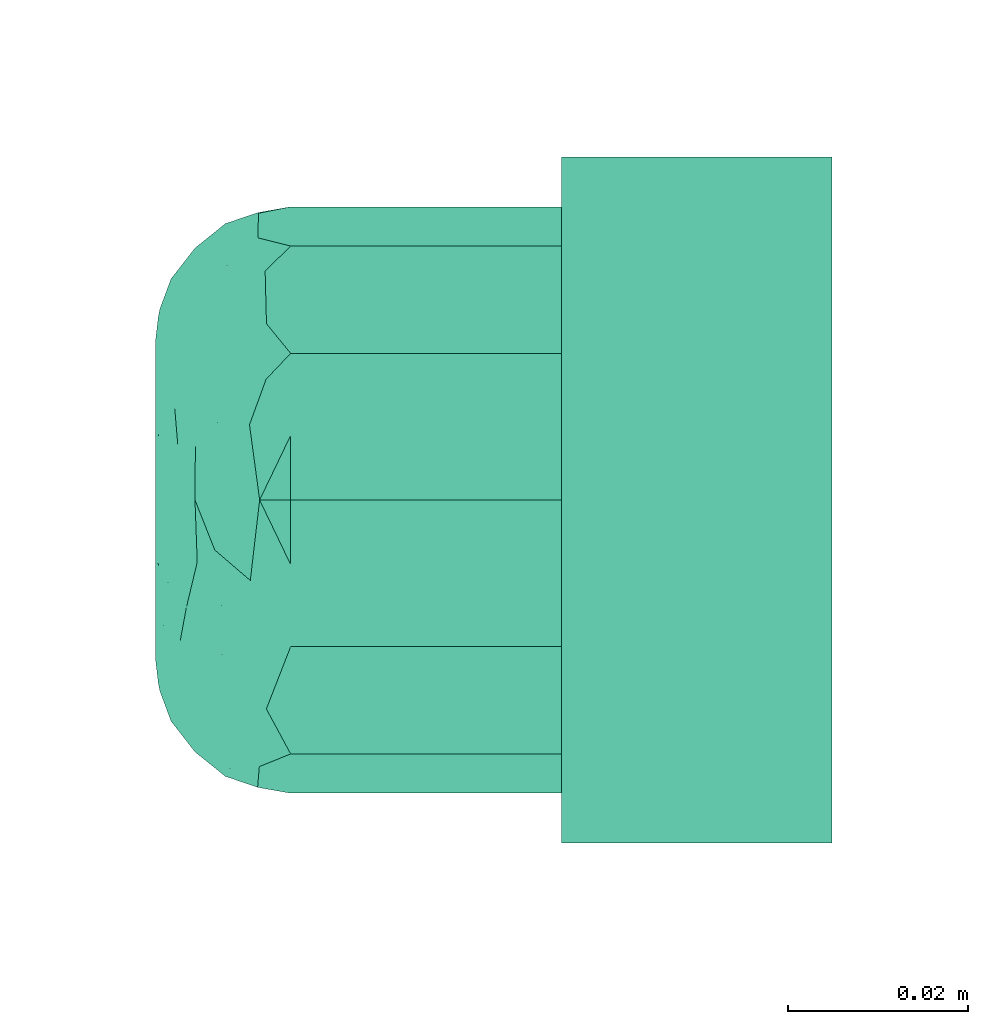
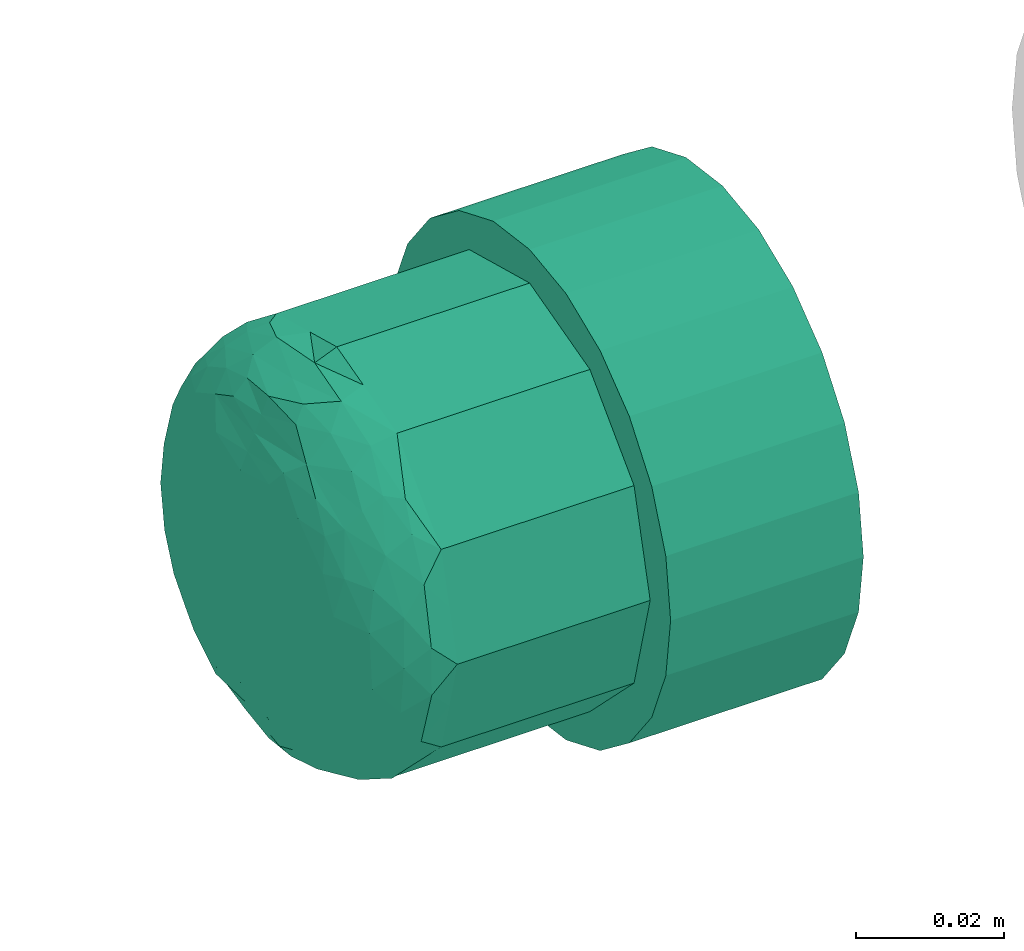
# One storey, part 39 of 146: 1 distribution control element.
"""IFC2X3 building model written with IfcOpenShell, lengths in metres."""

from ifc_helpers import new_model, entity, si_unit, converted_unit, derived_unit, direction, frame, origin, place, context, subcontext, project, spatial, faceted_brep, source, transform, mapped, material, type_object, type_shapes, element, save


model = new_model("IFC2X3")

# Units and contexts
model_context = context("Model", 3, precision=1e-05, world=origin(), true_north=direction((6.12303176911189e-17, 1.0)))
body_context = subcontext(model_context, "Body", "Model", "MODEL_VIEW")
ifc_project = project(units=[si_unit("LENGTHUNIT", "METRE"), si_unit("AREAUNIT", "SQUARE_METRE"), si_unit("VOLUMEUNIT", "CUBIC_METRE"), converted_unit("PLANEANGLEUNIT", "DEGREE", entity("IfcRatioMeasure", 0.0174532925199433), si_unit("PLANEANGLEUNIT", "RADIAN"), dimensions=[0, 0, 0, 0, 0, 0, 0]), si_unit("MASSUNIT", "GRAM", prefix="KILO"), derived_unit("MASSDENSITYUNIT", [(si_unit("MASSUNIT", "GRAM", prefix="KILO"), 1), (si_unit("LENGTHUNIT", "METRE"), -3)]), si_unit("TIMEUNIT", "SECOND"), si_unit("FREQUENCYUNIT", "HERTZ"), si_unit("THERMODYNAMICTEMPERATUREUNIT", "DEGREE_CELSIUS"), derived_unit("THERMALTRANSMITTANCEUNIT", [(si_unit("MASSUNIT", "GRAM", prefix="KILO"), 1), (si_unit("THERMODYNAMICTEMPERATUREUNIT", "KELVIN"), -1), (si_unit("TIMEUNIT", "SECOND"), -3)]), derived_unit("VOLUMETRICFLOWRATEUNIT", [(si_unit("LENGTHUNIT", "METRE"), 3), (si_unit("TIMEUNIT", "SECOND"), -1)]), si_unit("ELECTRICCURRENTUNIT", "AMPERE"), si_unit("ELECTRICVOLTAGEUNIT", "VOLT"), si_unit("POWERUNIT", "WATT"), si_unit("FORCEUNIT", "NEWTON"), si_unit("ILLUMINANCEUNIT", "LUX"), si_unit("LUMINOUSFLUXUNIT", "LUMEN"), si_unit("LUMINOUSINTENSITYUNIT", "CANDELA"), derived_unit("USERDEFINED", [(si_unit("MASSUNIT", "GRAM", prefix="KILO"), -1), (si_unit("LENGTHUNIT", "METRE"), -2), (si_unit("TIMEUNIT", "SECOND"), 3), (si_unit("LUMINOUSFLUXUNIT", "LUMEN"), 1)]), derived_unit("LINEARVELOCITYUNIT", [(si_unit("LENGTHUNIT", "METRE"), 1), (si_unit("TIMEUNIT", "SECOND"), -1)]), si_unit("PRESSUREUNIT", "PASCAL"), derived_unit("USERDEFINED", [(si_unit("LENGTHUNIT", "METRE"), -2), (si_unit("MASSUNIT", "GRAM", prefix="KILO"), 1), (si_unit("TIMEUNIT", "SECOND"), -2)])], contexts=[model_context])

# Site, building, storey
site_placement = place(None, origin())
site = spatial("IfcSite", under=ifc_project, at=site_placement, Name="Default", CompositionType="ELEMENT")
building_placement = place(site_placement, origin())
building = spatial("IfcBuilding", under=site, at=building_placement, CompositionType="ELEMENT")
storey_placement = place(building_placement, origin())
storey = spatial("IfcBuildingStorey", under=building, at=storey_placement, Name="S01", CompositionType="ELEMENT", Elevation=0.0)

# Distribution control element
ifc_material = material(Name="Red plastic")
alarm_type = type_object("IfcAlarmType", Name="Incendie_Flash", PredefinedType="NOTDEFINED", material=ifc_material)
shared_shape = source(origin(), body_context, "Body", "Brep", [
    faceted_brep([(0.00983512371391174, -0.0367051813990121, 0.0299999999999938), (0.0190000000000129, -0.0329089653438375, 0.0299999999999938), (0.0268700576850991, -0.0268700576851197, 0.0299999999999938), (0.0329089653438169, -0.0190000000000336, 0.0299999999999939), (0.0367051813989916, -0.00983512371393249, 0.029999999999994), (0.0380000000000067, 0.0, 0.0299999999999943), (0.0367051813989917, 0.0098351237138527, 0.0299999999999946), (0.0329089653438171, 0.0189999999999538, 0.0299999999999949), (0.0268700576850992, 0.02687005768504, 0.0299999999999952), (0.0190000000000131, 0.0329089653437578, 0.0299999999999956), (0.00983512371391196, 0.0367051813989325, 0.0299999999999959), (0.0, 0.0379999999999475, 0.0299999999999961), (-0.00983512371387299, 0.0367051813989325, 0.0299999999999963), (-0.0189999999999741, 0.0329089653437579, 0.0299999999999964), (-0.0268700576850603, 0.0268700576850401, 0.0299999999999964), (-0.0329089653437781, 0.0189999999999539, 0.0299999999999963), (-0.0367051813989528, 0.0098351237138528, 0.0299999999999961), (-0.0379999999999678, 0.0, 0.0299999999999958), (-0.0367051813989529, -0.00983512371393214, 0.0299999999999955), (-0.0329089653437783, -0.0190000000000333, 0.0299999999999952), (-0.0268700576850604, -0.0268700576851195, 0.0299999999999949), (-0.0189999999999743, -0.0329089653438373, 0.0299999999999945), (-0.0098351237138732, -0.036705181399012, 0.0299999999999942), (0.0, -0.038000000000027, 0.029999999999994), (0.0367051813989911, 0.00983512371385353, 0.0), (0.038000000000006, 0.0, 0.0), (0.036705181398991, -0.00983512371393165, 0.0), (0.0329089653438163, -0.0190000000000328, 0.0), (0.0268700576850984, -0.0268700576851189, 0.0), (0.0190000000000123, -0.0329089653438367, 0.0), (0.00983512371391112, -0.0367051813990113, 0.0), (0.0, -0.0380000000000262, 0.0), (-0.00983512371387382, -0.0367051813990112, 0.0), (-0.0189999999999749, -0.0329089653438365, 0.0), (-0.0268700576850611, -0.0268700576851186, 0.0), (-0.0329089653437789, -0.0190000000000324, 0.0), (-0.0367051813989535, -0.00983512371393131, 0.0), (-0.0379999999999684, 0.0, 0.0), (-0.0367051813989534, 0.00983512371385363, 0.0), (-0.0329089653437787, 0.0189999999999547, 0.0), (-0.0268700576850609, 0.0268700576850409, 0.0), (-0.0189999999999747, 0.0329089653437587, 0.0), (-0.00983512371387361, 0.0367051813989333, 0.0), (0.0, 0.0379999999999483, 0.0), (0.00983512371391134, 0.0367051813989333, 0.0), (0.0190000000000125, 0.0329089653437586, 0.0), (0.0268700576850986, 0.0268700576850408, 0.0), (0.0329089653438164, 0.0189999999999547, 0.0)], [[[0, 1, 2, 3, 4, 5, 6, 7, 8, 9, 10, 11, 12, 13, 14, 15, 16, 17, 18, 19, 20, 21, 22, 23]], [[24, 25, 26, 27, 28, 29, 30, 31, 32, 33, 34, 35, 36, 37, 38, 39, 40, 41, 42, 43, 44, 45, 46, 47]], [[36, 18, 17, 37]], [[35, 19, 18, 36]], [[21, 20, 34, 33]], [[35, 34, 20, 19]], [[22, 21, 33, 32]], [[23, 22, 32, 31]], [[30, 0, 23, 31]], [[29, 1, 0, 30]], [[29, 28, 2, 1]], [[28, 27, 3, 2]], [[26, 4, 3, 27]], [[26, 25, 5, 4]], [[24, 6, 5, 25]], [[47, 7, 6, 24]], [[9, 8, 46, 45]], [[47, 46, 8, 7]], [[10, 9, 45, 44]], [[11, 10, 44, 43]], [[43, 42, 12, 11]], [[15, 39, 38, 16]], [[40, 39, 15, 14]], [[16, 38, 37, 17]], [[12, 42, 41, 13]], [[41, 40, 14, 13]]]),
    faceted_brep([(0.0, 0.0310753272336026, 0.0634394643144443), (-0.00716197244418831, 0.0305809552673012, 0.0600000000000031), (-0.00833767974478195, 0.0306762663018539, 0.0645629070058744), (-0.0318494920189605, -0.00354130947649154, 0.063663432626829), (-0.0306323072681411, -0.000670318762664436, 0.0672353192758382), (-0.0317848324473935, 0.0042753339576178, 0.0635614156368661), (-0.0227868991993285, -0.00668807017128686, 0.0736367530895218), (-0.0182577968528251, -0.00974892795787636, 0.0746552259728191), (-0.0202727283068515, -0.00358393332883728, 0.074678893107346), (-0.016385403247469, 0.0254148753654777, 0.0679194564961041), (-0.021187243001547, 0.0212245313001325, 0.0683071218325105), (-0.0167767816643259, 0.0227822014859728, 0.0704169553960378), (-0.0200936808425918, -0.0121748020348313, 0.0737502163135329), (-0.00857849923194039, 0.0288841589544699, 0.0680903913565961), (-0.00590296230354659, 0.0275227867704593, 0.0705643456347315), (0.0, 0.0281066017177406, 0.070606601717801), (-0.0253054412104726, 0.0115121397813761, 0.0709036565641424), (-0.0298000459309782, 0.0070831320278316, 0.0672523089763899), (-0.0279333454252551, 0.00316972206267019, 0.0706005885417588), (-0.0142535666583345, 0.0145433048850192, 0.0747241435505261), (-0.00714839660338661, 0.0193281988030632, 0.0746745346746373), (-0.0140812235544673, 0.0176795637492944, 0.0741056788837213), (-0.0187772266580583, 0.0101036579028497, 0.0745046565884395), (-0.0207236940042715, 0.0135056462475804, 0.0731392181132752), (-0.0212676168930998, 0.0232237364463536, 0.0654097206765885), (-0.0253709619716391, 0.0198772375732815, 0.0628318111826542), (-0.0260097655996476, 0.0163827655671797, 0.0670513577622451), (-0.0273833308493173, -0.00573701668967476, 0.0707338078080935), (-0.0245225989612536, -8.80194780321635e-05, 0.0732544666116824), (-0.0290659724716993, 0.0135031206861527, 0.0636489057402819), (-0.0303229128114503, 0.00812499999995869, 0.0600000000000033), (-0.0265039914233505, -0.0119036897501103, 0.0695653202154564), (-0.0207033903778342, -0.0187904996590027, 0.0707520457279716), (-0.0231315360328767, -0.0125689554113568, 0.0721287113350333), (-0.00891676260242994, -0.0305418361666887, 0.064475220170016), (-0.0162499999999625, -0.0281458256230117, 0.0600000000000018), (-0.00812499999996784, -0.0303229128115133, 0.0600000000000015), (-0.00716197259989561, -0.0305809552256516, 0.0600000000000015), (-0.0104492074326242, 0.0229229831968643, 0.0728774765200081), (-0.0115458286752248, 0.0257177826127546, 0.0705219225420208), (0.0, -0.0228033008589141, 0.0728033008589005), (-0.00912165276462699, -0.0220231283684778, 0.0735954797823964), (-0.0118384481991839, -0.0243524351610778, 0.0715443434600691), (-0.0295480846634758, -0.0125213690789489, 0.0634761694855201), (-0.0297777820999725, -0.00830917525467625, 0.066710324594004), (-0.0212284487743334, -0.0212045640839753, 0.0682845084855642), (-0.0258588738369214, -0.0163601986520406, 0.0673075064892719), (-0.0171631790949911, -0.0251277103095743, 0.0676038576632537), (-0.0237895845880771, 0.00671046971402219, 0.0731492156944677), (-0.0212013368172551, 0.00276607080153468, 0.0744892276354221), (-0.0149371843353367, 0.00618718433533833, 0.0750000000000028), (-0.0207033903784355, 0.0187905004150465, 0.0707520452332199), (-0.0303229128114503, -0.00812500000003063, 0.0600000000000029), (-0.0155298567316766, -0.0142338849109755, 0.0745699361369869), (0.0, 0.0296506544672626, 0.0668789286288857), (0.0, -0.0281066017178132, 0.0706066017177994), (0.0, -0.0254549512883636, 0.0717049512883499), (-0.00689181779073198, -0.0275012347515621, 0.0703557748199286), (-0.0140812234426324, -0.0176795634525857, 0.0741056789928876), (-0.00714839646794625, -0.0193281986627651, 0.0746745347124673), (-0.00618718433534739, -0.0149371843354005, 0.0750000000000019), (0.0, 0.0228033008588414, 0.0728033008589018), (-0.0062193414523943, 0.024999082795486, 0.0725201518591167), (-0.0162499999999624, 0.0281458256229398, 0.0600000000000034), (-0.0221979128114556, 0.0221979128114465, 0.0600000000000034), (-0.0195368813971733, 0.0256689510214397, 0.0626830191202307), (-0.0150650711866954, 0.0277296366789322, 0.0652326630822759), (0.0, 0.0324999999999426, 0.0600000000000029), (-0.0133801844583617, 0.0293432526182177, 0.0627277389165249), (-0.00812499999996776, 0.0303229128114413, 0.0600000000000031), (-0.0281458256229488, 0.0162499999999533, 0.0600000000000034), (-0.0288189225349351, 0.0118325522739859, 0.0662114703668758), (-0.026864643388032, 0.0126649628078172, 0.0687264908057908), (-0.0324999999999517, 0.0, 0.0600000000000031), (-0.0281458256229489, -0.0162500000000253, 0.0600000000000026), (-0.0123743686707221, -0.0123743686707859, 0.0750000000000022), (-0.0149371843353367, -0.00618718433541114, 0.0750000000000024), (-0.0261755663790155, -0.0186043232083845, 0.0633828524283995), (-0.0231574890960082, -0.022453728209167, 0.0626954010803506), (-0.0215965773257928, -0.0229734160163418, 0.0653044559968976), (-0.0116849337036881, -0.028048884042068, 0.0676788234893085), (-0.0161946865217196, -0.027510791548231, 0.0641184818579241), (-0.005544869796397, -0.029399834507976, 0.0684136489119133), (0.0, -0.0201516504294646, 0.0739016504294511), (-0.0221979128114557, -0.0221979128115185, 0.0600000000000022), (-0.0160989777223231, 0.0197228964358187, 0.0727142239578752), (0.0, 0.0201516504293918, 0.0739016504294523), (0.0, 0.0174999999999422, 0.0750000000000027), (-0.00618718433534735, 0.0149371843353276, 0.0750000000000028), (-0.018783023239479, -0.0171862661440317, 0.072714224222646), (-0.0123743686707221, 0.0123743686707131, 0.075000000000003), (-0.0174999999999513, 0.0, 0.0750000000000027), (0.0, -0.0310753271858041, 0.0634394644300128), (0.0, -0.0296506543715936, 0.0668789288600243), (0.0, -0.0325000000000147, 0.0600000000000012), (-0.0154632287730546, -0.0211512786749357, 0.0722185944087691), (0.0, -0.0175000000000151, 0.0750000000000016), (0.0, 0.025454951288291, 0.0717049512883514), (0.0071619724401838, -0.0305809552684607, 0.060000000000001), (0.0083376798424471, -0.030676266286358, 0.0645629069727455), (0.0207033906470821, -0.0187905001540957, 0.0707520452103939), (0.0253054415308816, -0.0115121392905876, 0.0709036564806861), (0.020723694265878, -0.0135056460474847, 0.0731392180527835), (0.0115458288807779, -0.0257177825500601, 0.0705219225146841), (0.00590296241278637, -0.0275227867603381, 0.0705643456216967), (0.00857849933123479, -0.0288841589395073, 0.0680903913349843), (0.0163854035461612, -0.0254148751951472, 0.0679194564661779), (0.0211872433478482, -0.0212245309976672, 0.0683071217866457), (0.016776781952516, -0.0227822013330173, 0.0704169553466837), (0.0290659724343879, -0.0135031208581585, 0.0636489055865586), (0.0303229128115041, -0.0081250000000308, 0.0600000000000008), (0.0317848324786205, -0.0042753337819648, 0.0635614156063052), (0.0265039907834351, 0.0119036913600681, 0.0695653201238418), (0.0207033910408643, 0.0187904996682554, 0.0707520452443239), (0.0231315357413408, 0.0125689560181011, 0.0721287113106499), (0.0142535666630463, -0.0145433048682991, 0.074724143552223), (0.00714839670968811, -0.0193281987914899, 0.074674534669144), (0.0140812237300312, -0.0176795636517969, 0.0741056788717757), (0.0187772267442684, -0.01010365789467, 0.0745046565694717), (0.023789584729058, -0.0067104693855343, 0.0731492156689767), (0.0279333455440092, -0.00316972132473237, 0.070600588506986), (0.024522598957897, 8.80198207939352e-05, 0.0732544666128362), (0.027383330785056, 0.00573701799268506, 0.070733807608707), (0.0227868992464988, 0.00668807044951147, 0.0736367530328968), (0.0104492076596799, -0.0229229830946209, 0.0728774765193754), (0.0297777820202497, 0.00830917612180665, 0.0667103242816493), (0.0318494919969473, 0.0035413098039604, 0.0636634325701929), (0.0295480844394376, 0.0125213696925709, 0.0634761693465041), (0.0303229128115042, 0.00812499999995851, 0.0600000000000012), (0.0200936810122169, 0.0121748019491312, 0.073750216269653), (0.0182577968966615, 0.00974892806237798, 0.074655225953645), (0.0118384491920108, 0.0243524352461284, 0.0715443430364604), (0.0212284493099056, 0.0212045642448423, 0.0682845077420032), (0.0171631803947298, 0.0251277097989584, 0.0676038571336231), (0.020272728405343, 0.00358393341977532, 0.0746788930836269), (0.00912165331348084, 0.0220231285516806, 0.073595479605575), (0.0306323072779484, 0.00067031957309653, 0.0672353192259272), (0.02585887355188, 0.0163601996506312, 0.0673075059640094), (0.00891676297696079, 0.030541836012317, 0.0644752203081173), (0.0162500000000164, 0.0281458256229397, 0.0600000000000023), (0.0081250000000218, 0.0303229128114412, 0.0600000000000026), (0.00716197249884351, 0.0305809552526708, 0.0600000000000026), (0.0212676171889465, -0.0232237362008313, 0.0654097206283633), (0.0253709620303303, -0.0198772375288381, 0.0628318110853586), (0.0260097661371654, -0.0163827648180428, 0.0670513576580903), (0.0298000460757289, -0.00708313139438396, 0.0672523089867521), (0.0212013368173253, -0.00276607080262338, 0.0744892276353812), (0.0149371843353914, -0.00618718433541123, 0.0750000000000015), (0.0155298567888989, 0.0142338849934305, 0.0745699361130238), (0.00689181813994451, 0.0275012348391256, 0.0703557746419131), (0.014081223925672, 0.0176795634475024, 0.0741056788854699), (0.00714839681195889, 0.0193281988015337, 0.0746745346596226), (0.00618718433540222, 0.0149371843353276, 0.0750000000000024), (0.00621934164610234, -0.0249990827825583, 0.0725201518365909), (0.0162500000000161, -0.0281458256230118, 0.0600000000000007), (0.0221979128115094, -0.0221979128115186, 0.0600000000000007), (0.0195368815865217, -0.0256689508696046, 0.0626830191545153), (0.0150650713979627, -0.0277296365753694, 0.0652326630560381), (0.0133801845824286, -0.0293432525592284, 0.0627277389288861), (0.00812500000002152, -0.0303229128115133, 0.060000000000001), (0.0281458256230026, -0.0162500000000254, 0.0600000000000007), (0.0288189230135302, -0.0118325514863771, 0.0662114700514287), (0.0268646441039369, -0.0126649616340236, 0.0687264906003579), (0.0325000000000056, 0.0, 0.060000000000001), (0.0281458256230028, 0.0162499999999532, 0.0600000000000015), (0.0123743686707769, 0.012374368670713, 0.0750000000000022), (0.0149371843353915, 0.00618718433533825, 0.0750000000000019), (0.0261755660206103, 0.0186043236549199, 0.0633828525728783), (0.0231574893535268, 0.0224537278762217, 0.0626954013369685), (0.0215965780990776, 0.0229734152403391, 0.06530445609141), (0.0116849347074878, 0.0280488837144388, 0.0676788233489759), (0.0161946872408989, 0.027510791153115, 0.0641184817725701), (0.00554487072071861, 0.0293998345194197, 0.0684136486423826), (0.0221979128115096, 0.0221979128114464, 0.0600000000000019), (0.0160989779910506, -0.0197228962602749, 0.0727142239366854), (0.00618718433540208, -0.0149371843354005, 0.0750000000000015), (0.0187830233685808, 0.0171862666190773, 0.072714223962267), (0.0123743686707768, -0.012374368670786, 0.0750000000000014), (0.017500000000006, 0.0, 0.0750000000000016), (0.0154632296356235, 0.021151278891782, 0.0722185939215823), (0.0, 0.0, 0.0750000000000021), (0.0, 0.0, 0.0300000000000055), (0.0, -0.0325000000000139, 0.0300000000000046), (-0.0089852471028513, -0.0300924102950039, 0.0300000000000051), (-0.0162499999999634, -0.028145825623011, 0.0300000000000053), (-0.0221979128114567, -0.0221979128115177, 0.0300000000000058), (-0.0281458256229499, -0.0162500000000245, 0.030000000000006), (-0.0303229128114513, -0.00812500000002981, 0.0300000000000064), (-0.0324999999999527, 0.0, 0.0300000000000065), (-0.0303229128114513, 0.00812499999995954, 0.0300000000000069), (-0.0281458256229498, 0.0162499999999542, 0.0300000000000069), (-0.0221979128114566, 0.0221979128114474, 0.030000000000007), (-0.0162499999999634, 0.0281458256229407, 0.0300000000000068), (-0.00812499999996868, 0.0303229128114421, 0.0300000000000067), (0.0, 0.0324999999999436, 0.0300000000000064), (0.00898524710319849, 0.0300924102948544, 0.0300000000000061), (0.00812500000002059, -0.0303229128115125, 0.0300000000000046), (0.0162500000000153, -0.0281458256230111, 0.0300000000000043), (0.0221979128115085, -0.0221979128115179, 0.0300000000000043), (0.0281458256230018, -0.0162500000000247, 0.0300000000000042), (0.0303229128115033, -0.00812500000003, 0.0300000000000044), (0.0325000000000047, 0.0, 0.0300000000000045), (0.0162500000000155, 0.0281458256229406, 0.0300000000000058), (0.0221979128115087, 0.0221979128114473, 0.0300000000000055), (0.0281458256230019, 0.016249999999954, 0.0300000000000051), (0.0303229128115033, 0.00812499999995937, 0.0300000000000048)], [[[0, 1, 2]], [[3, 4, 5]], [[6, 7, 8]], [[9, 10, 11]], [[12, 7, 6]], [[13, 14, 15]], [[16, 17, 18]], [[19, 20, 21]], [[22, 19, 23]], [[24, 25, 26]], [[27, 6, 28]], [[17, 5, 4]], [[29, 30, 5]], [[31, 32, 33]], [[34, 35, 36, 37]], [[38, 39, 11]], [[40, 41, 42]], [[43, 44, 3]], [[27, 33, 6]], [[45, 32, 46]], [[45, 47, 42]], [[48, 18, 28]], [[14, 13, 39]], [[49, 50, 22]], [[51, 16, 23]], [[43, 3, 52]], [[20, 38, 21]], [[53, 7, 12]], [[15, 54, 13]], [[55, 56, 57]], [[58, 59, 60]], [[61, 62, 38]], [[63, 64, 65]], [[65, 25, 24]], [[66, 13, 2]], [[54, 2, 13]], [[13, 66, 9]], [[66, 65, 24]], [[54, 0, 2]], [[0, 67, 1]], [[68, 1, 69, 63]], [[68, 66, 2]], [[9, 66, 24]], [[26, 25, 29]], [[25, 64, 70]], [[26, 51, 10]], [[29, 25, 70]], [[26, 71, 72]], [[30, 73, 5]], [[71, 26, 29]], [[29, 70, 30]], [[3, 5, 73]], [[5, 17, 71]], [[74, 43, 52]], [[3, 44, 4]], [[3, 73, 52]], [[27, 4, 44]], [[18, 17, 4]], [[44, 46, 31]], [[7, 75, 76]], [[27, 18, 4]], [[16, 18, 48]], [[23, 16, 48]], [[51, 26, 72]], [[77, 43, 74]], [[44, 43, 46]], [[77, 78, 79]], [[80, 81, 34]], [[77, 46, 43]], [[45, 46, 79]], [[55, 57, 82]], [[59, 41, 83]], [[47, 81, 80]], [[81, 78, 35]], [[46, 77, 79]], [[74, 84, 35, 78]], [[10, 9, 24]], [[13, 9, 39]], [[26, 10, 24]], [[11, 10, 51]], [[38, 85, 21]], [[9, 11, 39]], [[85, 11, 51]], [[38, 20, 86]], [[86, 20, 87]], [[86, 61, 38]], [[31, 33, 27]], [[19, 88, 20]], [[88, 87, 20]], [[89, 33, 32]], [[22, 23, 48]], [[23, 21, 85]], [[22, 48, 49]], [[19, 22, 90]], [[28, 49, 48]], [[6, 8, 28]], [[50, 49, 91]], [[50, 90, 22]], [[27, 28, 18]], [[8, 7, 76]], [[49, 8, 91]], [[6, 33, 12]], [[91, 8, 76]], [[8, 49, 28]], [[89, 12, 33]], [[53, 12, 58]], [[58, 60, 53]], [[75, 7, 53]], [[92, 93, 34]], [[75, 53, 60]], [[93, 82, 34]], [[37, 94, 92]], [[37, 92, 34]], [[81, 79, 78]], [[35, 34, 81]], [[44, 31, 27]], [[32, 31, 46]], [[65, 66, 68]], [[25, 65, 64]], [[32, 95, 89]], [[56, 40, 42]], [[57, 80, 82]], [[56, 42, 57]], [[42, 80, 57]], [[34, 82, 80]], [[55, 82, 93]], [[41, 40, 83]], [[83, 96, 59]], [[58, 89, 95]], [[60, 59, 96]], [[41, 59, 58]], [[62, 61, 97]], [[97, 15, 14]], [[62, 14, 39]], [[14, 62, 97]], [[39, 38, 62]], [[1, 68, 2]], [[65, 68, 63]], [[5, 71, 29]], [[72, 17, 16]], [[17, 72, 71]], [[51, 72, 16]], [[47, 45, 79]], [[42, 32, 45]], [[81, 47, 79]], [[42, 47, 80]], [[74, 78, 77]], [[11, 85, 38]], [[23, 85, 51]], [[32, 42, 95]], [[12, 89, 58]], [[42, 41, 95]], [[58, 95, 41]], [[88, 19, 90]], [[23, 19, 21]], [[92, 98, 99]], [[100, 101, 102]], [[103, 104, 105]], [[106, 107, 108]], [[109, 110, 111]], [[55, 105, 104]], [[112, 113, 114]], [[115, 116, 117]], [[118, 115, 102]], [[119, 120, 121]], [[122, 123, 121]], [[124, 103, 108]], [[125, 126, 127]], [[127, 126, 128]], [[129, 130, 123]], [[131, 132, 133]], [[123, 130, 134]], [[61, 135, 131]], [[126, 136, 111]], [[132, 113, 137]], [[138, 139, 140, 141]], [[142, 143, 144]], [[145, 111, 136]], [[146, 147, 118]], [[122, 114, 123]], [[101, 145, 120]], [[116, 124, 117]], [[148, 130, 129]], [[55, 93, 105]], [[15, 97, 149]], [[150, 151, 152]], [[40, 153, 124]], [[154, 155, 156]], [[156, 143, 142]], [[157, 105, 99]], [[93, 99, 105]], [[105, 157, 106]], [[157, 156, 142]], [[93, 92, 99]], [[92, 94, 98]], [[158, 98, 159, 154]], [[158, 157, 99]], [[106, 157, 142]], [[144, 143, 109]], [[143, 155, 160]], [[144, 100, 107]], [[109, 143, 160]], [[144, 161, 162]], [[110, 163, 111]], [[161, 144, 109]], [[109, 160, 110]], [[126, 111, 163]], [[111, 145, 161]], [[164, 127, 128]], [[126, 125, 136]], [[126, 163, 128]], [[122, 136, 125]], [[120, 145, 136]], [[125, 137, 112]], [[130, 165, 166]], [[122, 120, 136]], [[101, 120, 119]], [[102, 101, 119]], [[100, 144, 162]], [[167, 127, 164]], [[125, 127, 137]], [[167, 168, 169]], [[170, 171, 138]], [[167, 137, 127]], [[132, 137, 169]], [[15, 149, 172]], [[151, 135, 86]], [[133, 171, 170]], [[171, 168, 139]], [[137, 167, 169]], [[164, 173, 139, 168]], [[107, 106, 142]], [[105, 106, 103]], [[144, 107, 142]], [[108, 107, 100]], [[124, 174, 117]], [[106, 108, 103]], [[174, 108, 100]], [[124, 116, 83]], [[83, 116, 96]], [[83, 40, 124]], [[112, 114, 122]], [[115, 175, 116]], [[175, 96, 116]], [[176, 114, 113]], [[118, 102, 119]], [[102, 117, 174]], [[118, 119, 146]], [[115, 118, 177]], [[121, 146, 119]], [[123, 134, 121]], [[147, 146, 178]], [[147, 177, 118]], [[122, 121, 120]], [[134, 130, 166]], [[146, 134, 178]], [[123, 114, 129]], [[178, 134, 166]], [[134, 146, 121]], [[176, 129, 114]], [[148, 129, 150]], [[150, 152, 148]], [[165, 130, 148]], [[0, 54, 138]], [[165, 148, 152]], [[54, 172, 138]], [[141, 67, 0]], [[141, 0, 138]], [[171, 169, 168]], [[139, 138, 171]], [[125, 112, 122]], [[113, 112, 137]], [[156, 157, 158]], [[143, 156, 155]], [[113, 179, 176]], [[97, 61, 131]], [[149, 170, 172]], [[97, 131, 149]], [[131, 170, 149]], [[138, 172, 170]], [[15, 172, 54]], [[135, 61, 86]], [[86, 87, 151]], [[150, 176, 179]], [[152, 151, 87]], [[135, 151, 150]], [[153, 40, 56]], [[104, 103, 153]], [[56, 55, 104]], [[104, 153, 56]], [[103, 124, 153]], [[98, 158, 99]], [[156, 158, 154]], [[111, 161, 109]], [[162, 145, 101]], [[145, 162, 161]], [[100, 162, 101]], [[133, 132, 169]], [[131, 113, 132]], [[171, 133, 169]], [[131, 133, 170]], [[164, 168, 167]], [[108, 174, 124]], [[102, 174, 100]], [[113, 131, 179]], [[129, 176, 150]], [[131, 135, 179]], [[150, 179, 135]], [[175, 115, 177]], [[102, 115, 117]], [[180, 91, 76]], [[180, 76, 75]], [[180, 75, 60]], [[180, 60, 96]], [[180, 96, 175]], [[180, 50, 91]], [[180, 90, 50]], [[180, 88, 90]], [[180, 87, 88]], [[180, 175, 177]], [[180, 177, 147]], [[180, 147, 178]], [[180, 178, 166]], [[180, 152, 87]], [[180, 165, 152]], [[180, 166, 165]], [[181, 182, 183]], [[181, 183, 184]], [[181, 184, 185]], [[181, 185, 186]], [[181, 186, 187]], [[181, 187, 188]], [[181, 188, 189]], [[181, 189, 190]], [[181, 190, 191]], [[181, 191, 192]], [[181, 192, 193]], [[181, 193, 194]], [[181, 194, 195]], [[181, 196, 182]], [[181, 197, 196]], [[181, 198, 197]], [[181, 199, 198]], [[181, 200, 199]], [[181, 201, 200]], [[181, 195, 202]], [[181, 202, 203]], [[181, 203, 204]], [[181, 204, 205]], [[181, 205, 201]], [[63, 192, 191, 190, 70, 64]], [[192, 63, 69, 1, 67, 194, 193]], [[183, 182, 94, 37, 36, 35, 184]], [[30, 70, 190, 189, 188, 73]], [[186, 185, 184, 35, 84, 74]], [[73, 188, 187, 186, 74, 52]], [[197, 154, 159, 98, 94, 182, 196]], [[155, 154, 197, 198, 199, 160]], [[195, 194, 67, 141, 140, 139, 202]], [[110, 160, 199, 200, 201, 163]], [[164, 204, 203, 202, 139, 173]], [[128, 163, 201, 205, 204, 164]]]),
])
type_shapes(alarm_type, [shared_shape])
distribution_control_element_placement = place(building_placement, frame((46.219743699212, -189.124300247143, 2.29999999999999), z_axis=(-1.0, 0.0, 0.0), x_axis=(0.0, 1.0, 0.0)))
element("IfcDistributionControlElement", 1, at=distribution_control_element_placement, inside=storey, type_object=alarm_type, material=ifc_material, Name="INT_Flash:Incendie_Flash", ObjectType="INT_Flash:Incendie_Flash", context=body_context, shape_type="MappedRepresentation", body=[
    mapped(shared_shape, transform((0.0, 0.0, 0.0), scale=1.0)),
])

save(model, "model.ifc")
